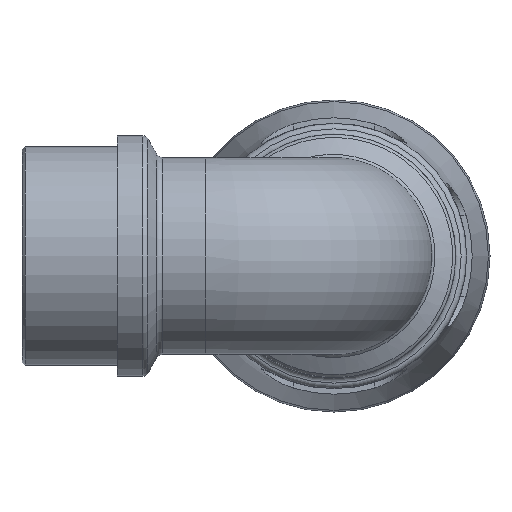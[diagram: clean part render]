
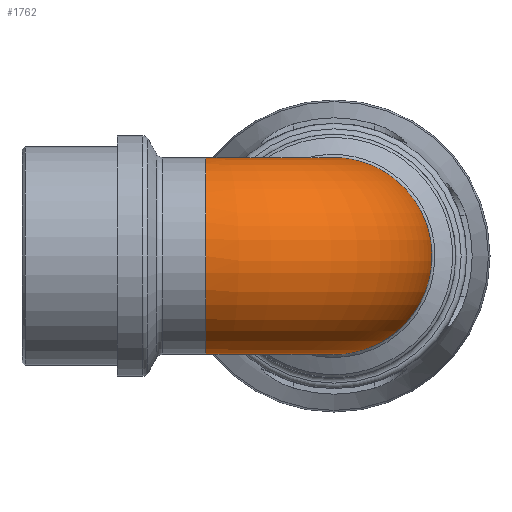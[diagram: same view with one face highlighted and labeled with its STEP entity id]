
A CAD part, left-side view. The second image highlights one B-rep face of the part: STEP entity #1762.
In plain terms, the highlighted toroidal (fillet/blend) face has major radius 34.998 mm and minor radius 26.826 mm.
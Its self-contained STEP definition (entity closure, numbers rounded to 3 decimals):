
#236=B_SPLINE_CURVE_WITH_KNOTS('',3,(#2685,#2686,#2687,#2688,#2689,#2690,
#2691,#2692,#2693,#2694,#2695,#2696,#2697,#2698,#2699,#2700,#2701,#2702,
#2703,#2704),.UNSPECIFIED.,.T.,.F.,(4,1,1,1,1,1,1,1,1,1,1,1,1,1,1,1,1,4),
(-3.142,-2.693,-2.244,-1.945,
-1.646,-1.346,-1.047,-0.449,
-0.15,0.449,0.598,0.748,
1.346,1.795,2.244,2.693,2.917,
3.142),.UNSPECIFIED.);
#357=FACE_BOUND('',#512,.T.);
#389=FACE_OUTER_BOUND('',#511,.T.);
#511=EDGE_LOOP('',(#1167));
#512=EDGE_LOOP('',(#1168));
#634=CIRCLE('',#1873,26.826);
#731=VERTEX_POINT('',#2580);
#733=VERTEX_POINT('',#2683);
#894=EDGE_CURVE('',#731,#731,#634,.T.);
#896=EDGE_CURVE('',#733,#733,#236,.T.);
#1167=ORIENTED_EDGE('',*,*,#896,.F.);
#1168=ORIENTED_EDGE('',*,*,#894,.T.);
#1632=TOROIDAL_SURFACE('',#1887,34.998,26.826);
#1762=ADVANCED_FACE('',(#389,#357),#1632,.T.);
#1873=AXIS2_PLACEMENT_3D('',#2581,#2091,#2092);
#1887=AXIS2_PLACEMENT_3D('',#2944,#2120,#2121);
#2091=DIRECTION('center_axis',(0.,-1.,0.));
#2092=DIRECTION('ref_axis',(-1.,0.,0.));
#2120=DIRECTION('center_axis',(0.,0.,1.));
#2121=DIRECTION('ref_axis',(1.,0.,0.));
#2580=CARTESIAN_POINT('',(26.826,34.998,0.));
#2581=CARTESIAN_POINT('Origin',(0.,34.998,0.));
#2683=CARTESIAN_POINT('',(29.8,28.692,0.));
#2685=CARTESIAN_POINT('Ctrl Pts',(29.799,28.694,0.004));
#2686=CARTESIAN_POINT('Ctrl Pts',(29.8,28.694,4.046));
#2687=CARTESIAN_POINT('Ctrl Pts',(29.919,26.143,12.063));
#2688=CARTESIAN_POINT('Ctrl Pts',(30.136,18.932,20.487));
#2689=CARTESIAN_POINT('Ctrl Pts',(30.238,10.62,25.254));
#2690=CARTESIAN_POINT('Ctrl Pts',(30.299,2.635,27.132));
#2691=CARTESIAN_POINT('Ctrl Pts',(30.336,-5.534,26.602));
#2692=CARTESIAN_POINT('Ctrl Pts',(30.369,-15.772,22.743));
#2693=CARTESIAN_POINT('Ctrl Pts',(30.384,-23.505,14.533));
#2694=CARTESIAN_POINT('Ctrl Pts',(30.391,-27.575,1.482));
#2695=CARTESIAN_POINT('Ctrl Pts',(30.389,-26.108,-8.277));
#2696=CARTESIAN_POINT('Ctrl Pts',(30.381,-21.981,-15.281));
#2697=CARTESIAN_POINT('Ctrl Pts',(30.37,-16.885,-21.609));
#2698=CARTESIAN_POINT('Ctrl Pts',(30.347,-7.042,-27.14));
#2699=CARTESIAN_POINT('Ctrl Pts',(30.277,6.817,-26.974));
#2700=CARTESIAN_POINT('Ctrl Pts',(30.16,18.034,-21.559));
#2701=CARTESIAN_POINT('Ctrl Pts',(29.964,24.792,-13.62));
#2702=CARTESIAN_POINT('Ctrl Pts',(29.826,28.055,-6.077));
#2703=CARTESIAN_POINT('Ctrl Pts',(29.798,28.694,-2.018));
#2704=CARTESIAN_POINT('Ctrl Pts',(29.799,28.694,0.004));
#2944=CARTESIAN_POINT('Origin',(34.998,34.998,0.));
